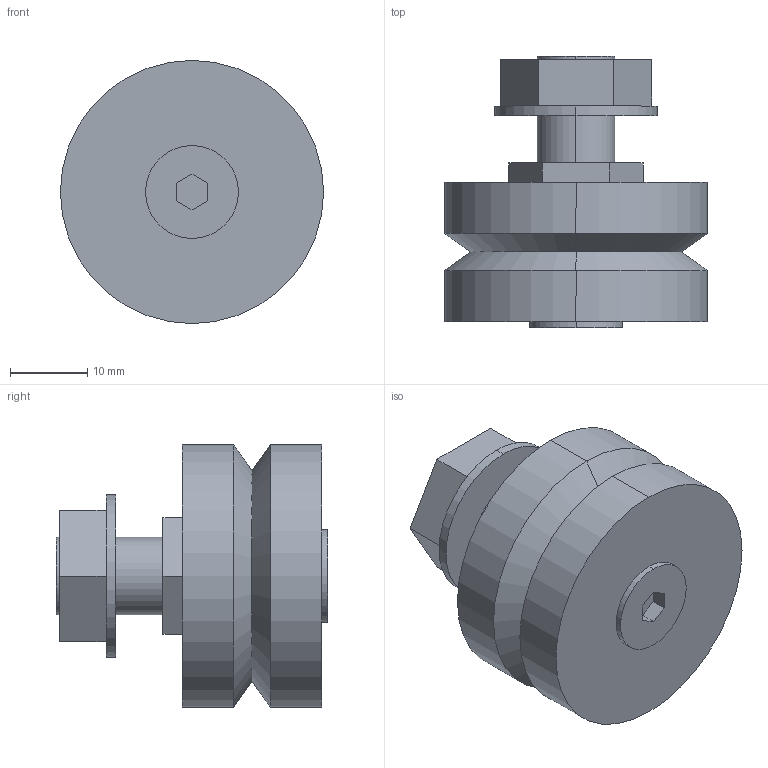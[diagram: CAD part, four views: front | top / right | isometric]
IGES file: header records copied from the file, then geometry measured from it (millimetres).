
Start section: 3D InterOp IGES (Version 21 0 1), Spatial Corp. Copyright (c) 1999-2007.
Global section: file name: RSJ34CNS.igs; native system: Spatial Corp.; preprocessor: 3D InterOp GENERIC/IGES 3.0; author: Noname; organization: Noname; date: 20220627.162829; units: millimetre
Bounding box: 34 x 35.1 x 34 mm (x, y, z)
Surface area: 5395 mm2 (no closed solid volume)
Topology: 0 solids, 0 shells, 43 faces, 192 edges, 192 vertices
Faces by surface type: extrusion 27, revolution 16
